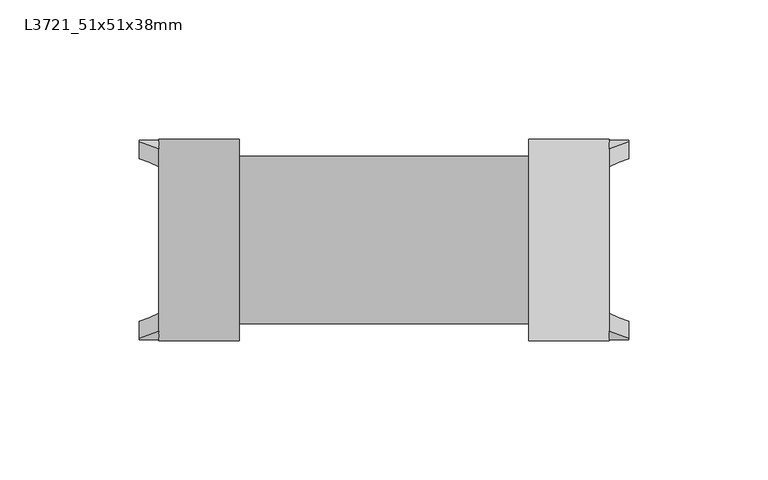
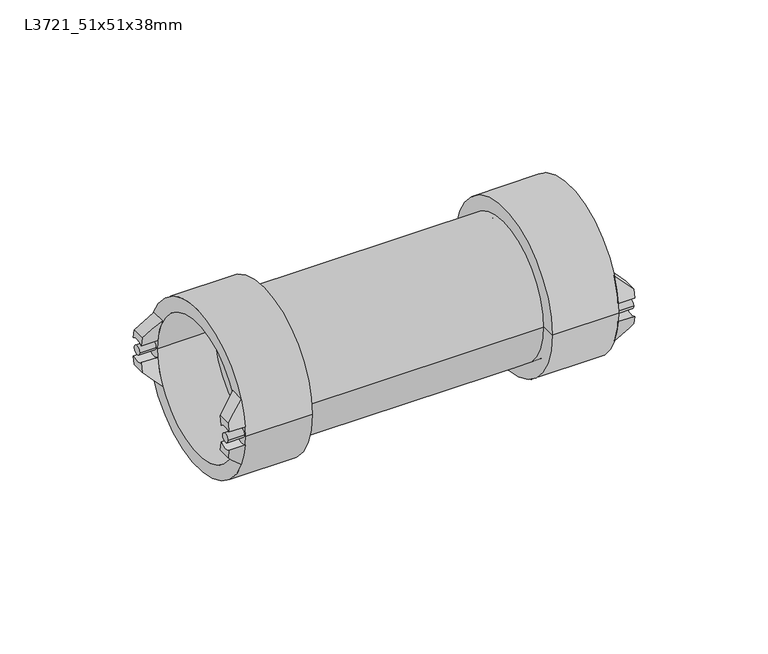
"""IFC4 building model written with IfcOpenShell, lengths in millimetres: pipe fitting geometry, Durapipe_PipeFitting_VulcatheneEnfusion_SingleReducingWye_L37 : L3721_51x51x38mm."""

from ifc_helpers import new_model, si_unit, point, frame, frame_2d, origin, place, context, project, spatial, polyline, circle_curve, ellipse_curve, trimmed, segment, composite_curve, outline, extrude, source, transform, mapped, element, save
from ifc_brep_helpers import plane_surface, cylinder_surface, revolved_surface, advanced_brep


def l3721_51x51x38mm_4155e39b(model_context):
    return source(origin(), model_context, "Body", "SolidModel", [
        advanced_brep(
        [(116.7, -30.0525301, -3.864639), (116.7, -35.9025301, -4.2226571), (116.7, -35.2672497, -7.94), (116.7, -29.2411764, -7.94), (109.6, -32.8910702, -15.0), (109.6, -35.9025301, -4.2226571), (109.6, -30.0525301, -3.864639), (109.6, -26.3266025, -15.0)],
        [
            (0, 1, circle_curve(frame((116.7, -33.225, 0.0), z_axis=(-1.0, 0.0, 0.0), x_axis=(0.0, 1.0, 0.0)), 5.0)),
            (1, 2, circle_curve(frame((116.7, 0.0, 0.0), z_axis=(1.0, 0.0, 0.0), x_axis=(0.0, 1.0, 0.0)), 36.15)),
            (2, 3),
            (3, 0, circle_curve(frame((116.7, 0.0, 0.0), z_axis=(-1.0, 0.0, 0.0), x_axis=(0.0, 1.0, 0.0)), 30.3)),
            (4, 5, circle_curve(frame((109.6, 0.0, 0.0), z_axis=(-1.0, 0.0, 0.0), x_axis=(0.0, 1.0, 0.0)), 36.15)),
            (5, 6, circle_curve(frame((109.6, -33.225, 0.0), z_axis=(1.0, 0.0, 0.0), x_axis=(0.0, 1.0, 0.0)), 5.0)),
            (6, 7, circle_curve(frame((109.6, 0.0, 0.0), z_axis=(1.0, 0.0, 0.0), x_axis=(0.0, 1.0, 0.0)), 30.3)),
            (7, 4),
            (6, 0),
            (3, 7, ellipse_curve(frame((124.6849858, 0.0, 0.0), z_axis=(0.705106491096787, 0.0, -0.7091014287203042), x_axis=(-0.7091014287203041, 0.0, -0.705106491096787)), 42.9722324, 30.3)),
            (4, 2, ellipse_curve(frame((124.6849858, 0.0, 0.0), z_axis=(-0.705106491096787, 0.0, 0.7091014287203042), x_axis=(0.7091014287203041, 0.0, 0.705106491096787)), 51.2688515, 36.15)),
            (1, 5),
        ],
        [
            plane_surface(frame((116.7, -32.8910702, -15.0), z_axis=(1.0, 0.0, 0.0), x_axis=(0.0, 1.0, 0.0))),
            plane_surface(frame((109.6, -32.8910702, -15.0), z_axis=(-1.0, 0.0, 0.0), x_axis=(0.0, -1.0, 0.0))),
            revolved_surface(polyline([(94.21331440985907, 30.3, 0.0), (155.15665719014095, 30.3, 0.0)]), (109.6, 0.0, 0.0), (-1.0, 0.0, 0.0)),
            cylinder_surface(frame((109.6, 0.0, 0.0), z_axis=(1.0, 0.0, 0.0), x_axis=(0.0, 1.0, 0.0)), 36.15),
            revolved_surface(polyline([(116.7, -28.225, 0.0), (109.6, -28.225, 0.0)]), (109.6, -33.225, 0.0), (1.0, 0.0, 0.0)),
            plane_surface(frame((109.6, 36.15, -15.0), z_axis=(0.705106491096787, 0.0, -0.7091014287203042), x_axis=(0.0, -1.0, 0.0))),
        ],
        [
            (0, [[1, 2, 3, 4]]),
            (1, [[5, 6, 7, 8]]),
            (2, [[-7, 9, -4, 10]]),
            (3, [[-5, 11, -2, 12]]),
            (4, [[-1, -9, -6, -12]]),
            (5, [[-3, -11, -8, -10]]),
        ],
    ),
        advanced_brep(
        [(116.7, -35.9025301, 4.2226571), (116.7, -30.0525301, 3.864639), (116.7, -29.2411764, 7.94), (116.7, -35.2672497, 7.94), (109.6, -35.9025301, 4.2226571), (109.6, -32.8910702, 15.0), (109.6, -26.3266025, 15.0), (109.6, -30.0525301, 3.864639)],
        [
            (0, 1, circle_curve(frame((116.7, -33.225, 0.0), z_axis=(-1.0, 0.0, 0.0), x_axis=(0.0, 1.0, 0.0)), 5.0)),
            (1, 2, circle_curve(frame((116.7, 0.0, 0.0), z_axis=(-1.0, 0.0, 0.0), x_axis=(0.0, 1.0, 0.0)), 30.3)),
            (2, 3),
            (3, 0, circle_curve(frame((116.7, 0.0, 0.0), z_axis=(1.0, 0.0, 0.0), x_axis=(0.0, 1.0, 0.0)), 36.15)),
            (4, 5, circle_curve(frame((109.6, 0.0, 0.0), z_axis=(-1.0, 0.0, 0.0), x_axis=(0.0, 1.0, 0.0)), 36.15)),
            (5, 6),
            (6, 7, circle_curve(frame((109.6, 0.0, 0.0), z_axis=(1.0, 0.0, 0.0), x_axis=(0.0, 1.0, 0.0)), 30.3)),
            (7, 4, circle_curve(frame((109.6, -33.225, 0.0), z_axis=(1.0, 0.0, 0.0), x_axis=(0.0, 1.0, 0.0)), 5.0)),
            (6, 2, ellipse_curve(frame((124.6849858, 0.0, 0.0), z_axis=(0.7051064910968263, 0.0, 0.7091014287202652), x_axis=(-0.7091014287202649, 0.0, 0.7051064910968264)), 42.9722324, 30.3)),
            (1, 7),
            (4, 0),
            (3, 5, ellipse_curve(frame((124.6849858, 0.0, 0.0), z_axis=(-0.7051064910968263, 0.0, -0.7091014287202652), x_axis=(0.7091014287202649, 0.0, -0.7051064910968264)), 51.2688515, 36.15)),
        ],
        [
            plane_surface(frame((116.7, -32.8910702, -15.0), z_axis=(1.0, 0.0, 0.0), x_axis=(0.0, 1.0, 0.0))),
            plane_surface(frame((109.6, -32.8910702, -15.0), z_axis=(-1.0, 0.0, 0.0), x_axis=(0.0, -1.0, 0.0))),
            revolved_surface(polyline([(94.21331440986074, 30.3, 0.0), (155.15665719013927, 30.3, 0.0)]), (109.6, 0.0, 0.0), (-1.0, 0.0, 0.0)),
            cylinder_surface(frame((109.6, 0.0, 0.0), z_axis=(1.0, 0.0, 0.0), x_axis=(0.0, 1.0, 0.0)), 36.15),
            revolved_surface(polyline([(116.7, -28.225, 0.0), (109.6, -28.225, 0.0)]), (109.6, -33.225, 0.0), (1.0, 0.0, 0.0)),
            plane_surface(frame((116.7, 36.15, 7.94), z_axis=(0.7051064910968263, 0.0, 0.7091014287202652), x_axis=(0.0, -1.0, 0.0))),
        ],
        [
            (0, [[1, 2, 3, 4]]),
            (1, [[5, 6, 7, 8]]),
            (2, [[-7, 9, -2, 10]]),
            (3, [[-5, 11, -4, 12]]),
            (4, [[-1, -11, -8, -10]]),
            (5, [[-3, -9, -6, -12]]),
        ],
    ),
        advanced_brep(
        [(116.7, 35.9025301, -4.2226571), (116.7, 30.0525301, -3.864639), (116.7, 29.2411764, -7.94), (116.7, 35.2672497, -7.94), (109.6, 35.9025301, -4.2226571), (109.6, 32.8910702, -15.0), (109.6, 26.3266025, -15.0), (109.6, 30.0525301, -3.864639)],
        [
            (0, 1, circle_curve(frame((116.7, 33.225, 0.0), z_axis=(-1.0, 0.0, 0.0), x_axis=(0.0, 1.0, 0.0)), 5.0)),
            (1, 2, circle_curve(frame((116.7, 0.0, 0.0), z_axis=(-1.0, 0.0, 0.0), x_axis=(0.0, 1.0, 0.0)), 30.3)),
            (2, 3),
            (3, 0, circle_curve(frame((116.7, 0.0, 0.0), z_axis=(1.0, 0.0, 0.0), x_axis=(0.0, 1.0, 0.0)), 36.15)),
            (4, 5, circle_curve(frame((109.6, 0.0, 0.0), z_axis=(-1.0, 0.0, 0.0), x_axis=(0.0, 1.0, 0.0)), 36.15)),
            (5, 6),
            (6, 7, circle_curve(frame((109.6, 0.0, 0.0), z_axis=(1.0, 0.0, 0.0), x_axis=(0.0, 1.0, 0.0)), 30.3)),
            (7, 4, circle_curve(frame((109.6, 33.225, 0.0), z_axis=(1.0, 0.0, 0.0), x_axis=(0.0, 1.0, 0.0)), 5.0)),
            (6, 2, ellipse_curve(frame((124.6849858, 0.0, 0.0), z_axis=(0.705106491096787, 0.0, -0.7091014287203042), x_axis=(-0.7091014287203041, 0.0, -0.705106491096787)), 42.9722324, 30.3)),
            (1, 7),
            (4, 0),
            (3, 5, ellipse_curve(frame((124.6849858, 0.0, 0.0), z_axis=(-0.705106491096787, 0.0, 0.7091014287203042), x_axis=(0.7091014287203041, 0.0, 0.705106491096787)), 51.2688515, 36.15)),
        ],
        [
            plane_surface(frame((116.7, -32.8910702, -15.0), z_axis=(1.0, 0.0, 0.0), x_axis=(0.0, 1.0, 0.0))),
            plane_surface(frame((109.6, -32.8910702, -15.0), z_axis=(-1.0, 0.0, 0.0), x_axis=(0.0, -1.0, 0.0))),
            revolved_surface(polyline([(94.21331440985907, 30.3, 0.0), (155.15665719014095, 30.3, 0.0)]), (109.6, 0.0, 0.0), (-1.0, 0.0, 0.0)),
            cylinder_surface(frame((109.6, 0.0, 0.0), z_axis=(1.0, 0.0, 0.0), x_axis=(0.0, 1.0, 0.0)), 36.15),
            revolved_surface(polyline([(116.7, 38.225, 0.0), (109.6, 38.225, 0.0)]), (109.6, 33.225, 0.0), (1.0, 0.0, 0.0)),
            plane_surface(frame((109.6, 36.15, -15.0), z_axis=(0.705106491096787, 0.0, -0.7091014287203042), x_axis=(0.0, -1.0, 0.0))),
        ],
        [
            (0, [[1, 2, 3, 4]]),
            (1, [[5, 6, 7, 8]]),
            (2, [[-7, 9, -2, 10]]),
            (3, [[-5, 11, -4, 12]]),
            (4, [[-1, -11, -8, -10]]),
            (5, [[-3, -9, -6, -12]]),
        ],
    ),
        advanced_brep(
        [(116.7, 30.0525301, 3.864639), (116.7, 35.9025301, 4.2226571), (116.7, 35.2672497, 7.94), (116.7, 29.2411764, 7.94), (109.6, 32.8910702, 15.0), (109.6, 35.9025301, 4.2226571), (109.6, 30.0525301, 3.864639), (109.6, 26.3266025, 15.0)],
        [
            (0, 1, circle_curve(frame((116.7, 33.225, 0.0), z_axis=(-1.0, 0.0, 0.0), x_axis=(0.0, 1.0, 0.0)), 5.0)),
            (1, 2, circle_curve(frame((116.7, 0.0, 0.0), z_axis=(1.0, 0.0, 0.0), x_axis=(0.0, 1.0, 0.0)), 36.15)),
            (2, 3),
            (3, 0, circle_curve(frame((116.7, 0.0, 0.0), z_axis=(-1.0, 0.0, 0.0), x_axis=(0.0, 1.0, 0.0)), 30.3)),
            (4, 5, circle_curve(frame((109.6, 0.0, 0.0), z_axis=(-1.0, 0.0, 0.0), x_axis=(0.0, 1.0, 0.0)), 36.15)),
            (5, 6, circle_curve(frame((109.6, 33.225, 0.0), z_axis=(1.0, 0.0, 0.0), x_axis=(0.0, 1.0, 0.0)), 5.0)),
            (6, 7, circle_curve(frame((109.6, 0.0, 0.0), z_axis=(1.0, 0.0, 0.0), x_axis=(0.0, 1.0, 0.0)), 30.3)),
            (7, 4),
            (6, 0),
            (3, 7, ellipse_curve(frame((124.6849858, 0.0, 0.0), z_axis=(0.7051064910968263, 0.0, 0.7091014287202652), x_axis=(-0.7091014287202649, 0.0, 0.7051064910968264)), 42.9722324, 30.3)),
            (4, 2, ellipse_curve(frame((124.6849858, 0.0, 0.0), z_axis=(-0.7051064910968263, 0.0, -0.7091014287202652), x_axis=(0.7091014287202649, 0.0, -0.7051064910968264)), 51.2688515, 36.15)),
            (1, 5),
        ],
        [
            plane_surface(frame((116.7, -32.8910702, -15.0), z_axis=(1.0, 0.0, 0.0), x_axis=(0.0, 1.0, 0.0))),
            plane_surface(frame((109.6, -32.8910702, -15.0), z_axis=(-1.0, 0.0, 0.0), x_axis=(0.0, -1.0, 0.0))),
            revolved_surface(polyline([(94.21331440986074, 30.3, 0.0), (155.15665719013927, 30.3, 0.0)]), (109.6, 0.0, 0.0), (-1.0, 0.0, 0.0)),
            cylinder_surface(frame((109.6, 0.0, 0.0), z_axis=(1.0, 0.0, 0.0), x_axis=(0.0, 1.0, 0.0)), 36.15),
            revolved_surface(polyline([(116.7, 38.225, 0.0), (109.6, 38.225, 0.0)]), (109.6, 33.225, 0.0), (1.0, 0.0, 0.0)),
            plane_surface(frame((116.7, 36.15, 7.94), z_axis=(0.7051064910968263, 0.0, 0.7091014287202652), x_axis=(0.0, -1.0, 0.0))),
        ],
        [
            (0, [[1, 2, 3, 4]]),
            (1, [[5, 6, 7, 8]]),
            (2, [[-7, 9, -4, 10]]),
            (3, [[-5, 11, -2, 12]]),
            (4, [[-1, -9, -6, -12]]),
            (5, [[-3, -11, -8, -10]]),
        ],
    ),
        extrude(outline(composite_curve([segment(trimmed(circle_curve(frame_2d((-33.225, 0.0)), 2.0), [point((-35.225, 0.0))], [point((-31.225, 0.0))], False, "CARTESIAN"), True, "CONTINUOUS"), segment(trimmed(circle_curve(frame_2d((-33.225, 0.0)), 2.0), [point((-31.225, 0.0))], [point((-35.225, 0.0))], False, "CARTESIAN"), True, "CONTINUOUS")], self_intersect=False)), frame((109.6, 0.0, 0.0), z_axis=(1.0, 0.0, 0.0), x_axis=(0.0, 1.0, 0.0)), (0.0, 0.0, 1.0), 7.1),
        extrude(outline(composite_curve([segment(trimmed(circle_curve(frame_2d((33.225, 0.0)), 2.0), [point((31.225, 0.0))], [point((35.225, 0.0))], False, "CARTESIAN"), True, "CONTINUOUS"), segment(trimmed(circle_curve(frame_2d((33.225, 0.0)), 2.0), [point((35.225, 0.0))], [point((31.225, 0.0))], False, "CARTESIAN"), True, "CONTINUOUS")], self_intersect=False)), frame((109.6, 0.0, 0.0), z_axis=(1.0, 0.0, 0.0), x_axis=(0.0, 1.0, 0.0)), (0.0, 0.0, 1.0), 7.1),
        advanced_brep(
        [(84.6, -26.0, 0.0), (84.6, 26.0, 0.0), (84.6, 30.15, 0.0), (84.6, -30.15, 0.0), (80.7, -26.0, 0.0), (80.7, 26.0, 0.0), (80.7, -36.3, 0.0), (80.7, 36.3, 0.0), (109.6, -36.3, 0.0), (109.6, 36.3, 0.0), (109.6, -30.15, 0.0), (109.6, 30.15, 0.0)],
        [
            (0, 1, circle_curve(frame((84.6, 0.0, 0.0), z_axis=(-1.0, 0.0, 0.0), x_axis=(0.0, 1.0, 0.0)), 26.0)),
            (1, 2),
            (2, 3, circle_curve(frame((84.6, 0.0, 0.0), z_axis=(1.0, 0.0, 0.0), x_axis=(0.0, 1.0, 0.0)), 30.15)),
            (3, 0),
            (1, 0, circle_curve(frame((84.6, 0.0, 0.0), z_axis=(-1.0, 0.0, 0.0), x_axis=(0.0, 1.0, 0.0)), 26.0)),
            (3, 2, circle_curve(frame((84.6, 0.0, 0.0), z_axis=(1.0, 0.0, 0.0), x_axis=(0.0, 1.0, 0.0)), 30.15)),
            (4, 5, circle_curve(frame((80.7, 0.0, 0.0), z_axis=(-1.0, 0.0, 0.0), x_axis=(0.0, 1.0, 0.0)), 26.0)),
            (5, 1),
            (0, 4),
            (5, 4, circle_curve(frame((80.7, 0.0, 0.0), z_axis=(-1.0, 0.0, 0.0), x_axis=(0.0, 1.0, 0.0)), 26.0)),
            (6, 7, circle_curve(frame((80.7, 0.0, 0.0), z_axis=(-1.0, 0.0, 0.0), x_axis=(0.0, 1.0, 0.0)), 36.3)),
            (7, 5),
            (4, 6),
            (7, 6, circle_curve(frame((80.7, 0.0, 0.0), z_axis=(-1.0, 0.0, 0.0), x_axis=(0.0, 1.0, 0.0)), 36.3)),
            (8, 9, circle_curve(frame((109.6, 0.0, 0.0), z_axis=(-1.0, 0.0, 0.0), x_axis=(0.0, 1.0, 0.0)), 36.3)),
            (9, 7),
            (6, 8),
            (9, 8, circle_curve(frame((109.6, 0.0, 0.0), z_axis=(-1.0, 0.0, 0.0), x_axis=(0.0, 1.0, 0.0)), 36.3)),
            (10, 11, circle_curve(frame((109.6, 0.0, 0.0), z_axis=(-1.0, 0.0, 0.0), x_axis=(0.0, 1.0, 0.0)), 30.15)),
            (11, 9),
            (8, 10),
            (11, 10, circle_curve(frame((109.6, 0.0, 0.0), z_axis=(-1.0, 0.0, 0.0), x_axis=(0.0, 1.0, 0.0)), 30.15)),
            (2, 11),
            (10, 3),
        ],
        [
            plane_surface(frame((84.6, 0.0, 0.0), z_axis=(1.0, 0.0, 0.0), x_axis=(0.0, 1.0, 0.0))),
            revolved_surface(polyline([(84.59999999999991, 26.0, 0.0), (80.69999999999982, 26.0, 0.0)]), (2623.5826241, 0.0, 0.0), (1.0, 0.0, 0.0)),
            plane_surface(frame((80.7, 0.0, 0.0), z_axis=(-1.0, 0.0, 0.0), x_axis=(0.0, 1.0, 0.0))),
            cylinder_surface(frame((2623.5826241, 0.0, 0.0), z_axis=(1.0, 0.0, 0.0), x_axis=(0.0, 1.0, 0.0)), 36.3),
            plane_surface(frame((109.6, 0.0, 0.0), z_axis=(1.0, 0.0, 0.0), x_axis=(0.0, 1.0, 0.0))),
            revolved_surface(polyline([(109.59999999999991, 30.15, 0.0), (84.59999999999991, 30.15, 0.0)]), (2623.5826241, 0.0, 0.0), (1.0, 0.0, 0.0)),
        ],
        [
            (0, [[1, 2, 3, 4]]),
            (0, [[5, -4, 6, -2]]),
            (1, [[7, 8, -1, 9]]),
            (1, [[10, -9, -5, -8]]),
            (2, [[11, 12, -7, 13]]),
            (2, [[14, -13, -10, -12]]),
            (3, [[15, 16, -11, 17]]),
            (3, [[18, -17, -14, -16]]),
            (4, [[19, 20, -15, 21]]),
            (4, [[22, -21, -18, -20]]),
            (5, [[-3, 23, -19, 24]]),
            (5, [[-6, -24, -22, -23]]),
        ],
    ),
        advanced_brep(
        [(-59.5, -30.0525301, 3.864639), (-59.5, -35.9025301, 4.2226571), (-59.5, -35.2672497, 7.94), (-59.5, -29.2411764, 7.94), (-52.4, -32.8910702, 15.0), (-52.4, -35.9025301, 4.2226571), (-52.4, -30.0525301, 3.864639), (-52.4, -26.3266025, 15.0)],
        [
            (0, 1, circle_curve(frame((-59.5, -33.225, 0.0), z_axis=(1.0, 0.0, 0.0), x_axis=(0.0, 1.0, 0.0)), 5.0)),
            (1, 2, circle_curve(frame((-59.5, 0.0, 0.0), z_axis=(-1.0, 0.0, 0.0), x_axis=(0.0, 1.0, 0.0)), 36.15)),
            (2, 3),
            (3, 0, circle_curve(frame((-59.5, 0.0, 0.0), z_axis=(1.0, 0.0, 0.0), x_axis=(0.0, 1.0, 0.0)), 30.3)),
            (4, 5, circle_curve(frame((-52.4, 0.0, 0.0), z_axis=(1.0, 0.0, 0.0), x_axis=(0.0, 1.0, 0.0)), 36.15)),
            (5, 6, circle_curve(frame((-52.4, -33.225, 0.0), z_axis=(-1.0, 0.0, 0.0), x_axis=(0.0, 1.0, 0.0)), 5.0)),
            (6, 7, circle_curve(frame((-52.4, 0.0, 0.0), z_axis=(-1.0, 0.0, 0.0), x_axis=(0.0, 1.0, 0.0)), 30.3)),
            (7, 4),
            (6, 0),
            (3, 7, ellipse_curve(frame((-67.4849858, 0.0, 0.0), z_axis=(-0.705106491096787, 0.0, 0.7091014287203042), x_axis=(0.7091014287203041, 0.0, 0.705106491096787)), 42.9722324, 30.3)),
            (4, 2, ellipse_curve(frame((-67.4849858, 0.0, 0.0), z_axis=(0.705106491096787, 0.0, -0.7091014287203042), x_axis=(-0.7091014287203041, 0.0, -0.705106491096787)), 51.2688515, 36.15)),
            (1, 5),
        ],
        [
            plane_surface(frame((-59.5, -32.8910702, 15.0), z_axis=(-1.0, 0.0, 0.0), x_axis=(0.0, 1.0, 0.0))),
            plane_surface(frame((-52.4, -32.8910702, 15.0), z_axis=(1.0, 0.0, 0.0), x_axis=(0.0, -1.0, 0.0))),
            revolved_surface(polyline([(-37.01331440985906, 30.3, 0.0), (-97.95665719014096, 30.3, 0.0)]), (-52.4, 0.0, 0.0), (1.0, 0.0, 0.0)),
            cylinder_surface(frame((-52.4, 0.0, 0.0), z_axis=(-1.0, 0.0, 0.0), x_axis=(0.0, 1.0, 0.0)), 36.15),
            revolved_surface(polyline([(-59.5, -28.225, 0.0), (-52.4, -28.225, 0.0)]), (-52.4, -33.225, 0.0), (-1.0, 0.0, 0.0)),
            plane_surface(frame((-52.4, 36.15, 15.0), z_axis=(-0.705106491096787, 0.0, 0.7091014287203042), x_axis=(0.0, -1.0, 0.0))),
        ],
        [
            (0, [[1, 2, 3, 4]]),
            (1, [[5, 6, 7, 8]]),
            (2, [[-7, 9, -4, 10]]),
            (3, [[-5, 11, -2, 12]]),
            (4, [[-1, -9, -6, -12]]),
            (5, [[-3, -11, -8, -10]]),
        ],
    ),
        advanced_brep(
        [(-59.5, -35.9025301, -4.2226571), (-59.5, -30.0525301, -3.864639), (-59.5, -29.2411764, -7.94), (-59.5, -35.2672497, -7.94), (-52.4, -35.9025301, -4.2226571), (-52.4, -32.8910702, -15.0), (-52.4, -26.3266025, -15.0), (-52.4, -30.0525301, -3.864639)],
        [
            (0, 1, circle_curve(frame((-59.5, -33.225, 0.0), z_axis=(1.0, 0.0, 0.0), x_axis=(0.0, 1.0, 0.0)), 5.0)),
            (1, 2, circle_curve(frame((-59.5, 0.0, 0.0), z_axis=(1.0, 0.0, 0.0), x_axis=(0.0, 1.0, 0.0)), 30.3)),
            (2, 3),
            (3, 0, circle_curve(frame((-59.5, 0.0, 0.0), z_axis=(-1.0, 0.0, 0.0), x_axis=(0.0, 1.0, 0.0)), 36.15)),
            (4, 5, circle_curve(frame((-52.4, 0.0, 0.0), z_axis=(1.0, 0.0, 0.0), x_axis=(0.0, 1.0, 0.0)), 36.15)),
            (5, 6),
            (6, 7, circle_curve(frame((-52.4, 0.0, 0.0), z_axis=(-1.0, 0.0, 0.0), x_axis=(0.0, 1.0, 0.0)), 30.3)),
            (7, 4, circle_curve(frame((-52.4, -33.225, 0.0), z_axis=(-1.0, 0.0, 0.0), x_axis=(0.0, 1.0, 0.0)), 5.0)),
            (6, 2, ellipse_curve(frame((-67.4849858, 0.0, 0.0), z_axis=(-0.7051064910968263, 0.0, -0.7091014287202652), x_axis=(0.7091014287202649, 0.0, -0.7051064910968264)), 42.9722324, 30.3)),
            (1, 7),
            (4, 0),
            (3, 5, ellipse_curve(frame((-67.4849858, 0.0, 0.0), z_axis=(0.7051064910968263, 0.0, 0.7091014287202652), x_axis=(-0.7091014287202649, 0.0, 0.7051064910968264)), 51.2688515, 36.15)),
        ],
        [
            plane_surface(frame((-59.5, -32.8910702, 15.0), z_axis=(-1.0, 0.0, 0.0), x_axis=(0.0, 1.0, 0.0))),
            plane_surface(frame((-52.4, -32.8910702, 15.0), z_axis=(1.0, 0.0, 0.0), x_axis=(0.0, -1.0, 0.0))),
            revolved_surface(polyline([(-37.01331440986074, 30.3, 0.0), (-97.95665719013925, 30.3, 0.0)]), (-52.4, 0.0, 0.0), (1.0, 0.0, 0.0)),
            cylinder_surface(frame((-52.4, 0.0, 0.0), z_axis=(-1.0, 0.0, 0.0), x_axis=(0.0, 1.0, 0.0)), 36.15),
            revolved_surface(polyline([(-59.5, -28.225, 0.0), (-52.4, -28.225, 0.0)]), (-52.4, -33.225, 0.0), (-1.0, 0.0, 0.0)),
            plane_surface(frame((-59.5, 36.15, -7.94), z_axis=(-0.7051064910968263, 0.0, -0.7091014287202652), x_axis=(0.0, -1.0, 0.0))),
        ],
        [
            (0, [[1, 2, 3, 4]]),
            (1, [[5, 6, 7, 8]]),
            (2, [[-7, 9, -2, 10]]),
            (3, [[-5, 11, -4, 12]]),
            (4, [[-1, -11, -8, -10]]),
            (5, [[-3, -9, -6, -12]]),
        ],
    ),
        advanced_brep(
        [(-59.5, 35.9025301, 4.2226571), (-59.5, 30.0525301, 3.864639), (-59.5, 29.2411764, 7.94), (-59.5, 35.2672497, 7.94), (-52.4, 35.9025301, 4.2226571), (-52.4, 32.8910702, 15.0), (-52.4, 26.3266025, 15.0), (-52.4, 30.0525301, 3.864639)],
        [
            (0, 1, circle_curve(frame((-59.5, 33.225, 0.0), z_axis=(1.0, 0.0, 0.0), x_axis=(0.0, 1.0, 0.0)), 5.0)),
            (1, 2, circle_curve(frame((-59.5, 0.0, 0.0), z_axis=(1.0, 0.0, 0.0), x_axis=(0.0, 1.0, 0.0)), 30.3)),
            (2, 3),
            (3, 0, circle_curve(frame((-59.5, 0.0, 0.0), z_axis=(-1.0, 0.0, 0.0), x_axis=(0.0, 1.0, 0.0)), 36.15)),
            (4, 5, circle_curve(frame((-52.4, 0.0, 0.0), z_axis=(1.0, 0.0, 0.0), x_axis=(0.0, 1.0, 0.0)), 36.15)),
            (5, 6),
            (6, 7, circle_curve(frame((-52.4, 0.0, 0.0), z_axis=(-1.0, 0.0, 0.0), x_axis=(0.0, 1.0, 0.0)), 30.3)),
            (7, 4, circle_curve(frame((-52.4, 33.225, 0.0), z_axis=(-1.0, 0.0, 0.0), x_axis=(0.0, 1.0, 0.0)), 5.0)),
            (6, 2, ellipse_curve(frame((-67.4849858, 0.0, 0.0), z_axis=(-0.705106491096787, 0.0, 0.7091014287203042), x_axis=(0.7091014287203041, 0.0, 0.705106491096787)), 42.9722324, 30.3)),
            (1, 7),
            (4, 0),
            (3, 5, ellipse_curve(frame((-67.4849858, 0.0, 0.0), z_axis=(0.705106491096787, 0.0, -0.7091014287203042), x_axis=(-0.7091014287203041, 0.0, -0.705106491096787)), 51.2688515, 36.15)),
        ],
        [
            plane_surface(frame((-59.5, -32.8910702, 15.0), z_axis=(-1.0, 0.0, 0.0), x_axis=(0.0, 1.0, 0.0))),
            plane_surface(frame((-52.4, -32.8910702, 15.0), z_axis=(1.0, 0.0, 0.0), x_axis=(0.0, -1.0, 0.0))),
            revolved_surface(polyline([(-37.01331440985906, 30.3, 0.0), (-97.95665719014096, 30.3, 0.0)]), (-52.4, 0.0, 0.0), (1.0, 0.0, 0.0)),
            cylinder_surface(frame((-52.4, 0.0, 0.0), z_axis=(-1.0, 0.0, 0.0), x_axis=(0.0, 1.0, 0.0)), 36.15),
            revolved_surface(polyline([(-59.5, 38.225, 0.0), (-52.4, 38.225, 0.0)]), (-52.4, 33.225, 0.0), (-1.0, 0.0, 0.0)),
            plane_surface(frame((-52.4, 36.15, 15.0), z_axis=(-0.705106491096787, 0.0, 0.7091014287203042), x_axis=(0.0, -1.0, 0.0))),
        ],
        [
            (0, [[1, 2, 3, 4]]),
            (1, [[5, 6, 7, 8]]),
            (2, [[-7, 9, -2, 10]]),
            (3, [[-5, 11, -4, 12]]),
            (4, [[-1, -11, -8, -10]]),
            (5, [[-3, -9, -6, -12]]),
        ],
    ),
        advanced_brep(
        [(-59.5, 30.0525301, -3.864639), (-59.5, 35.9025301, -4.2226571), (-59.5, 35.2672497, -7.94), (-59.5, 29.2411764, -7.94), (-52.4, 32.8910702, -15.0), (-52.4, 35.9025301, -4.2226571), (-52.4, 30.0525301, -3.864639), (-52.4, 26.3266025, -15.0)],
        [
            (0, 1, circle_curve(frame((-59.5, 33.225, 0.0), z_axis=(1.0, 0.0, 0.0), x_axis=(0.0, 1.0, 0.0)), 5.0)),
            (1, 2, circle_curve(frame((-59.5, 0.0, 0.0), z_axis=(-1.0, 0.0, 0.0), x_axis=(0.0, 1.0, 0.0)), 36.15)),
            (2, 3),
            (3, 0, circle_curve(frame((-59.5, 0.0, 0.0), z_axis=(1.0, 0.0, 0.0), x_axis=(0.0, 1.0, 0.0)), 30.3)),
            (4, 5, circle_curve(frame((-52.4, 0.0, 0.0), z_axis=(1.0, 0.0, 0.0), x_axis=(0.0, 1.0, 0.0)), 36.15)),
            (5, 6, circle_curve(frame((-52.4, 33.225, 0.0), z_axis=(-1.0, 0.0, 0.0), x_axis=(0.0, 1.0, 0.0)), 5.0)),
            (6, 7, circle_curve(frame((-52.4, 0.0, 0.0), z_axis=(-1.0, 0.0, 0.0), x_axis=(0.0, 1.0, 0.0)), 30.3)),
            (7, 4),
            (6, 0),
            (3, 7, ellipse_curve(frame((-67.4849858, 0.0, 0.0), z_axis=(-0.7051064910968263, 0.0, -0.7091014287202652), x_axis=(0.7091014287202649, 0.0, -0.7051064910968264)), 42.9722324, 30.3)),
            (4, 2, ellipse_curve(frame((-67.4849858, 0.0, 0.0), z_axis=(0.7051064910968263, 0.0, 0.7091014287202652), x_axis=(-0.7091014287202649, 0.0, 0.7051064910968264)), 51.2688515, 36.15)),
            (1, 5),
        ],
        [
            plane_surface(frame((-59.5, -32.8910702, 15.0), z_axis=(-1.0, 0.0, 0.0), x_axis=(0.0, 1.0, 0.0))),
            plane_surface(frame((-52.4, -32.8910702, 15.0), z_axis=(1.0, 0.0, 0.0), x_axis=(0.0, -1.0, 0.0))),
            revolved_surface(polyline([(-37.01331440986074, 30.3, 0.0), (-97.95665719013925, 30.3, 0.0)]), (-52.4, 0.0, 0.0), (1.0, 0.0, 0.0)),
            cylinder_surface(frame((-52.4, 0.0, 0.0), z_axis=(-1.0, 0.0, 0.0), x_axis=(0.0, 1.0, 0.0)), 36.15),
            revolved_surface(polyline([(-59.5, 38.225, 0.0), (-52.4, 38.225, 0.0)]), (-52.4, 33.225, 0.0), (-1.0, 0.0, 0.0)),
            plane_surface(frame((-59.5, 36.15, -7.94), z_axis=(-0.7051064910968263, 0.0, -0.7091014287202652), x_axis=(0.0, -1.0, 0.0))),
        ],
        [
            (0, [[1, 2, 3, 4]]),
            (1, [[5, 6, 7, 8]]),
            (2, [[-7, 9, -4, 10]]),
            (3, [[-5, 11, -2, 12]]),
            (4, [[-1, -9, -6, -12]]),
            (5, [[-3, -11, -8, -10]]),
        ],
    ),
        extrude(outline(composite_curve([segment(trimmed(circle_curve(frame_2d((-33.225, 0.0)), 2.0), [point((-35.225, 0.0))], [point((-31.225, 0.0))], False, "CARTESIAN"), True, "CONTINUOUS"), segment(trimmed(circle_curve(frame_2d((-33.225, 0.0)), 2.0), [point((-31.225, 0.0))], [point((-35.225, 0.0))], False, "CARTESIAN"), True, "CONTINUOUS")], self_intersect=False)), frame((-59.5, 0.0, 0.0), z_axis=(1.0, 0.0, 0.0), x_axis=(0.0, 1.0, 0.0)), (0.0, 0.0, 1.0), 7.1),
        extrude(outline(composite_curve([segment(trimmed(circle_curve(frame_2d((33.225, 0.0)), 2.0), [point((31.225, 0.0))], [point((35.225, 0.0))], False, "CARTESIAN"), True, "CONTINUOUS"), segment(trimmed(circle_curve(frame_2d((33.225, 0.0)), 2.0), [point((35.225, 0.0))], [point((31.225, 0.0))], False, "CARTESIAN"), True, "CONTINUOUS")], self_intersect=False)), frame((-59.5, 0.0, 0.0), z_axis=(1.0, 0.0, 0.0), x_axis=(0.0, 1.0, 0.0)), (0.0, 0.0, 1.0), 7.1),
        advanced_brep(
        [(-27.4, -26.0, 0.0), (-27.4, 26.0, 0.0), (-27.4, 30.15, 0.0), (-27.4, -30.15, 0.0), (-23.5, -26.0, 0.0), (-23.5, 26.0, 0.0), (-23.5, -36.3, 0.0), (-23.5, 36.3, 0.0), (-52.4, -36.3, 0.0), (-52.4, 36.3, 0.0), (-52.4, -30.15, 0.0), (-52.4, 30.15, 0.0)],
        [
            (0, 1, circle_curve(frame((-27.4, 0.0, 0.0), z_axis=(1.0, 0.0, 0.0), x_axis=(0.0, 1.0, 0.0)), 26.0)),
            (1, 2),
            (2, 3, circle_curve(frame((-27.4, 0.0, 0.0), z_axis=(-1.0, 0.0, 0.0), x_axis=(0.0, 1.0, 0.0)), 30.15)),
            (3, 0),
            (1, 0, circle_curve(frame((-27.4, 0.0, 0.0), z_axis=(1.0, 0.0, 0.0), x_axis=(0.0, 1.0, 0.0)), 26.0)),
            (3, 2, circle_curve(frame((-27.4, 0.0, 0.0), z_axis=(-1.0, 0.0, 0.0), x_axis=(0.0, 1.0, 0.0)), 30.15)),
            (4, 5, circle_curve(frame((-23.5, 0.0, 0.0), z_axis=(1.0, 0.0, 0.0), x_axis=(0.0, 1.0, 0.0)), 26.0)),
            (5, 1),
            (0, 4),
            (5, 4, circle_curve(frame((-23.5, 0.0, 0.0), z_axis=(1.0, 0.0, 0.0), x_axis=(0.0, 1.0, 0.0)), 26.0)),
            (6, 7, circle_curve(frame((-23.5, 0.0, 0.0), z_axis=(1.0, 0.0, 0.0), x_axis=(0.0, 1.0, 0.0)), 36.3)),
            (7, 5),
            (4, 6),
            (7, 6, circle_curve(frame((-23.5, 0.0, 0.0), z_axis=(1.0, 0.0, 0.0), x_axis=(0.0, 1.0, 0.0)), 36.3)),
            (8, 9, circle_curve(frame((-52.4, 0.0, 0.0), z_axis=(1.0, 0.0, 0.0), x_axis=(0.0, 1.0, 0.0)), 36.3)),
            (9, 7),
            (6, 8),
            (9, 8, circle_curve(frame((-52.4, 0.0, 0.0), z_axis=(1.0, 0.0, 0.0), x_axis=(0.0, 1.0, 0.0)), 36.3)),
            (10, 11, circle_curve(frame((-52.4, 0.0, 0.0), z_axis=(1.0, 0.0, 0.0), x_axis=(0.0, 1.0, 0.0)), 30.15)),
            (11, 9),
            (8, 10),
            (11, 10, circle_curve(frame((-52.4, 0.0, 0.0), z_axis=(1.0, 0.0, 0.0), x_axis=(0.0, 1.0, 0.0)), 30.15)),
            (2, 11),
            (10, 3),
        ],
        [
            plane_surface(frame((-27.4, 0.0, 0.0), z_axis=(-1.0, 0.0, 0.0), x_axis=(0.0, 1.0, 0.0))),
            revolved_surface(polyline([(-27.40000000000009, 26.0, 0.0), (-23.5, 26.0, 0.0)]), (-2566.3826241, 0.0, 0.0), (-1.0, 0.0, 0.0)),
            plane_surface(frame((-23.5, 0.0, 0.0), z_axis=(1.0, 0.0, 0.0), x_axis=(0.0, 1.0, 0.0))),
            cylinder_surface(frame((-2566.3826241, 0.0, 0.0), z_axis=(-1.0, 0.0, 0.0), x_axis=(0.0, 1.0, 0.0)), 36.3),
            plane_surface(frame((-52.4, 0.0, 0.0), z_axis=(-1.0, 0.0, 0.0), x_axis=(0.0, 1.0, 0.0))),
            revolved_surface(polyline([(-52.40000000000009, 30.15, 0.0), (-27.40000000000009, 30.15, 0.0)]), (-2566.3826241, 0.0, 0.0), (-1.0, 0.0, 0.0)),
        ],
        [
            (0, [[1, 2, 3, 4]]),
            (0, [[5, -4, 6, -2]]),
            (1, [[7, 8, -1, 9]]),
            (1, [[10, -9, -5, -8]]),
            (2, [[11, 12, -7, 13]]),
            (2, [[14, -13, -10, -12]]),
            (3, [[15, 16, -11, 17]]),
            (3, [[18, -17, -14, -16]]),
            (4, [[19, 20, -15, 21]]),
            (4, [[22, -21, -18, -20]]),
            (5, [[-3, 23, -19, 24]]),
            (5, [[-6, -24, -22, -23]]),
        ],
    ),
        advanced_brep(
        [(-27.4, 0.0, 0.0), (-27.4, 30.15, 0.0), (-27.4, -30.15, 0.0), (84.6, -30.15, 0.0), (84.6, 30.15, 0.0), (84.6, 0.0, 0.0)],
        [
            (0, 1),
            (1, 2, circle_curve(frame((-27.4, 0.0, 0.0), z_axis=(-1.0, 0.0, 0.0), x_axis=(0.0, 1.0, 0.0)), 30.15)),
            (2, 0),
            (2, 1, circle_curve(frame((-27.4, 0.0, 0.0), z_axis=(-1.0, 0.0, 0.0), x_axis=(0.0, 1.0, 0.0)), 30.15)),
            (3, 4, circle_curve(frame((84.6, 0.0, 0.0), z_axis=(1.0, 0.0, 0.0), x_axis=(0.0, 1.0, 0.0)), 30.15)),
            (4, 5),
            (5, 3),
            (4, 3, circle_curve(frame((84.6, 0.0, 0.0), z_axis=(1.0, 0.0, 0.0), x_axis=(0.0, 1.0, 0.0)), 30.15)),
            (1, 4),
            (3, 2),
        ],
        [
            plane_surface(frame((-27.4, 0.0, 0.0), z_axis=(-1.0, 0.0, 0.0), x_axis=(0.0, 1.0, 0.0))),
            plane_surface(frame((84.6, 0.0, 0.0), z_axis=(1.0, 0.0, 0.0), x_axis=(0.0, 1.0, 0.0))),
            cylinder_surface(frame((99.6, 0.0, 0.0), z_axis=(-1.0, 0.0, 0.0), x_axis=(0.0, 1.0, 0.0)), 30.15),
        ],
        [
            (0, [[1, 2, 3]]),
            (0, [[-3, 4, -1]]),
            (1, [[5, 6, 7]]),
            (1, [[8, -7, -6]]),
            (2, [[-2, 9, -5, 10]]),
            (2, [[-4, -10, -8, -9]]),
        ],
    ),
    ])


if __name__ == "__main__":
    model = new_model("IFC4")
    model_context = context("Model", 3, world=origin())
    ifc_project = project(units=[si_unit("LENGTHUNIT", "METRE", prefix="MILLI")], contexts=[model_context])
    site = spatial("IfcSite", under=ifc_project)
    building = spatial("IfcBuilding", under=site)
    placement = place(None, origin())
    l3721_51x51x38mm_shape = l3721_51x51x38mm_4155e39b(model_context)
    element("IfcPipeFitting", 1, ObjectType="Durapipe_PipeFitting_VulcatheneEnfusion_SingleReducingWye_L37 : L3721_51x51x38mm", at=placement, inside=building, context=model_context, shape_type="MappedRepresentation", body=[
        mapped(l3721_51x51x38mm_shape, transform((0.0, 0.0, 0.0), x_axis=(1.0, 0.0, 0.0), y_axis=(0.0, 1.0, 0.0), z_axis=(0.0, 0.0, 1.0))),
    ])
    save(model, "model.ifc")
